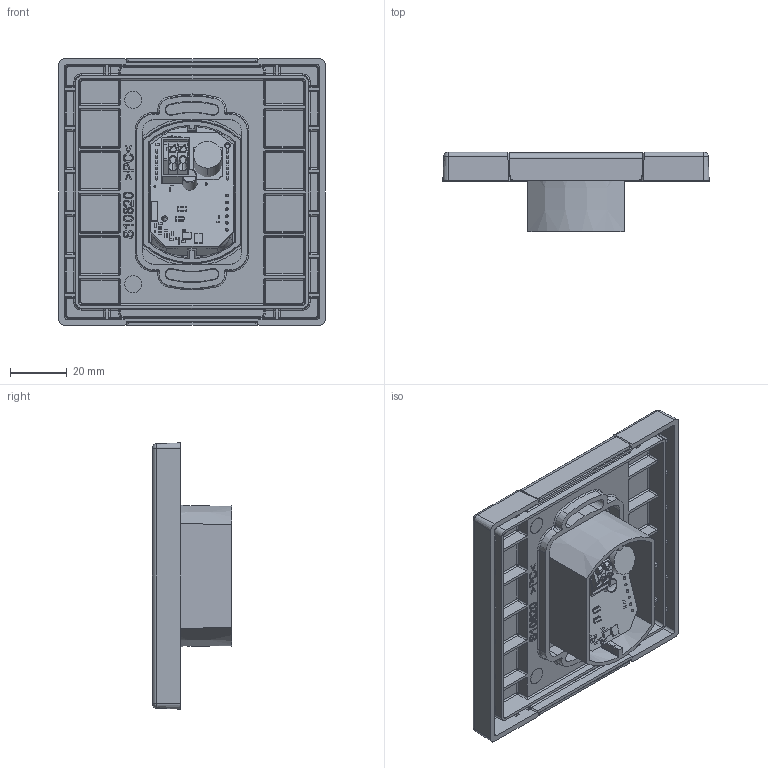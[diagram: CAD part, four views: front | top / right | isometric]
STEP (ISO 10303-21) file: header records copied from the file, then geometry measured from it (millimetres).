
FILE_DESCRIPTION (( 'STEP AP214' ), '1' );
FILE_NAME ('ENTRAsys_Unterputzvariante.STEP', '2018-10-17T07:49:04', ( '' ), ( '' ), 'SwSTEP 2.0', 'SolidWorks 2017', '' );
FILE_SCHEMA (( 'AUTOMOTIVE_DESIGN' ));
Length unit declared in the file: millimetre
Products named in the file (16): 90685; 412_B_691412120002B; 90689; 90684; 90688; ENTRAsys SOMloq2 Main Board Rev5EW1; 90712; 90693; PCBS10196_FPS-B_Rev2EW1; 90859; Stecker_Wanne; 90691; 90680_Kernmodul; Entrasys_Platine_komplett_05012016; ENTRA_Klebestreifen_3M93017LE; ENTRAsys_Unterputzvariante
Assembly tree (20 placements, depth 5):
  ENTRAsys_Unterputzvariante
    90684
    90712
      90685
      90691  x2
      ENTRA_Klebestreifen_3M93017LE  x2
    90693
      90680_Kernmodul
      90688  x4
      Entrasys_Platine_komplett_05012016
        ENTRAsys SOMloq2 Main Board Rev5EW1
        PCBS10196_FPS-B_Rev2EW1
        Stecker_Wanne
          412_B_691412120002B
          90859
      90689
Bounding box: 94 x 27.9 x 94 mm (x, y, z)
Volume: 43549.1 mm3; surface area: 68277.6 mm2
Topology: 15 solids, 219 shells, 2718 faces, 7058 edges, 4483 vertices
Faces by surface type: plane 1559, cylinder 615, bspline 233, sphere 156, cone 99, torus 56
Entity records: 110268 total; most frequent: CARTESIAN_POINT 28570, ORIENTED_EDGE 12511, DIRECTION 12357, EDGE_CURVE 6829, LINE 4725, VECTOR 4725, VERTEX_POINT 4427, AXIS2_PLACEMENT_3D 3816
